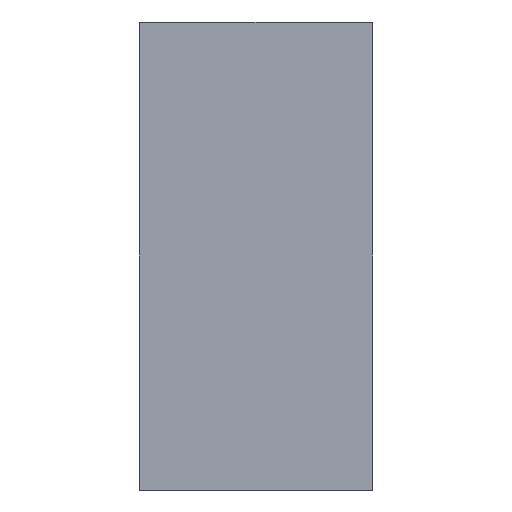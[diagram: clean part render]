
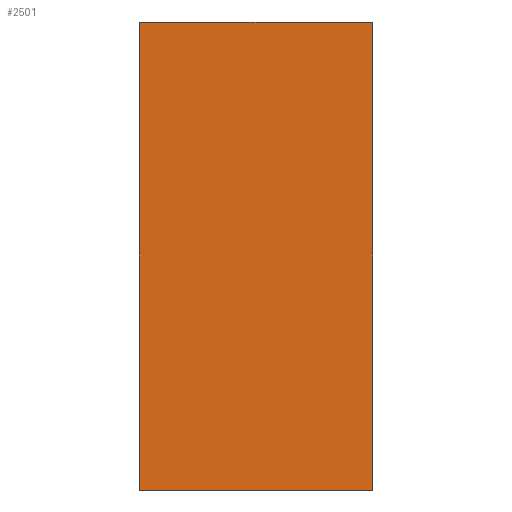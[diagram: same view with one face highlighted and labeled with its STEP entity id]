
A CAD part, front view. The second image highlights one B-rep face of the part: STEP entity #2501.
In plain terms, the highlighted planar face has unit normal (0, -1, 0).
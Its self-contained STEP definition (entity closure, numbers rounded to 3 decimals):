
#62 = DIRECTION ( 'NONE',  ( 0., -1., 0. ) ) ;
#69 = VERTEX_POINT ( 'NONE', #658 ) ;
#112 = VERTEX_POINT ( 'NONE', #427 ) ;
#156 = LINE ( 'NONE', #1162, #797 ) ;
#178 = CIRCLE ( 'NONE', #3249, 0.5 ) ;
#238 = VERTEX_POINT ( 'NONE', #1790 ) ;
#288 = AXIS2_PLACEMENT_3D ( 'NONE', #2289, #3443, #913 ) ;
#310 = CARTESIAN_POINT ( 'NONE',  ( 0., 0., 220. ) ) ;
#397 = AXIS2_PLACEMENT_3D ( 'NONE', #2457, #62, #1070 ) ;
#408 = LINE ( 'NONE', #1442, #1291 ) ;
#427 = CARTESIAN_POINT ( 'NONE',  ( -109.5, 0., 220. ) ) ;
#474 = DIRECTION ( 'NONE',  ( 0., -1., 0. ) ) ;
#495 = VECTOR ( 'NONE', #1329, 1000. ) ;
#570 = VERTEX_POINT ( 'NONE', #2739 ) ;
#582 = CARTESIAN_POINT ( 'NONE',  ( -109.5, 0., 219.5 ) ) ;
#611 = ORIENTED_EDGE ( 'NONE', *, *, #2812, .T. ) ;
#619 = CARTESIAN_POINT ( 'NONE',  ( 0., 0., -220. ) ) ;
#658 = CARTESIAN_POINT ( 'NONE',  ( -110., 0., 219.5 ) ) ;
#793 = EDGE_CURVE ( 'NONE', #69, #1966, #156, .T. ) ;
#797 = VECTOR ( 'NONE', #2286, 1000. ) ;
#815 = ORIENTED_EDGE ( 'NONE', *, *, #1789, .T. ) ;
#898 = ORIENTED_EDGE ( 'NONE', *, *, #3034, .T. ) ;
#913 = DIRECTION ( 'NONE',  ( -1., 0., 0. ) ) ;
#943 = DIRECTION ( 'NONE',  ( 0., 1., 0. ) ) ;
#958 = ORIENTED_EDGE ( 'NONE', *, *, #2306, .F. ) ;
#1070 = DIRECTION ( 'NONE',  ( -1., 0., 0. ) ) ;
#1126 = ORIENTED_EDGE ( 'NONE', *, *, #2446, .F. ) ;
#1162 = CARTESIAN_POINT ( 'NONE',  ( -110., 0., 220. ) ) ;
#1187 = CARTESIAN_POINT ( 'NONE',  ( 109.5, 0., -220. ) ) ;
#1199 = FACE_OUTER_BOUND ( 'NONE', #2536, .T. ) ;
#1291 = VECTOR ( 'NONE', #2571, 1000. ) ;
#1329 = DIRECTION ( 'NONE',  ( 1., 0., 0. ) ) ;
#1360 = DIRECTION ( 'NONE',  ( 0., -1., 0. ) ) ;
#1442 = CARTESIAN_POINT ( 'NONE',  ( 110., 0., 220. ) ) ;
#1516 = DIRECTION ( 'NONE',  ( -1., 0., 0. ) ) ;
#1570 = AXIS2_PLACEMENT_3D ( 'NONE', #3479, #943, #2050 ) ;
#1665 = CARTESIAN_POINT ( 'NONE',  ( -110., 0., -219.5 ) ) ;
#1680 = DIRECTION ( 'NONE',  ( 1., 0., 0. ) ) ;
#1789 = EDGE_CURVE ( 'NONE', #3418, #238, #178, .T. ) ;
#1790 = CARTESIAN_POINT ( 'NONE',  ( 110., 0., -219.5 ) ) ;
#1966 = VERTEX_POINT ( 'NONE', #1665 ) ;
#1977 = EDGE_CURVE ( 'NONE', #570, #3418, #3104, .T. ) ;
#2050 = DIRECTION ( 'NONE',  ( -1., 0., 0. ) ) ;
#2243 = CIRCLE ( 'NONE', #288, 0.5 ) ;
#2286 = DIRECTION ( 'NONE',  ( 0., 0., -1. ) ) ;
#2289 = CARTESIAN_POINT ( 'NONE',  ( 109.5, 0., 219.5 ) ) ;
#2306 = EDGE_CURVE ( 'NONE', #112, #3055, #2742, .T. ) ;
#2328 = PLANE ( 'NONE',  #1570 ) ;
#2347 = AXIS2_PLACEMENT_3D ( 'NONE', #582, #1360, #2491 ) ;
#2367 = CIRCLE ( 'NONE', #397, 0.5 ) ;
#2428 = ORIENTED_EDGE ( 'NONE', *, *, #3285, .T. ) ;
#2446 = EDGE_CURVE ( 'NONE', #2688, #238, #408, .T. ) ;
#2457 = CARTESIAN_POINT ( 'NONE',  ( -109.5, 0., -219.5 ) ) ;
#2467 = CIRCLE ( 'NONE', #2347, 0.5 ) ;
#2491 = DIRECTION ( 'NONE',  ( -1., 0., 0. ) ) ;
#2501 = ADVANCED_FACE ( 'NONE', ( #1199 ), #2328, .F. ) ;
#2536 = EDGE_LOOP ( 'NONE', ( #958, #898, #2886, #2428, #2996, #815, #1126, #611 ) ) ;
#2571 = DIRECTION ( 'NONE',  ( 0., 0., -1. ) ) ;
#2688 = VERTEX_POINT ( 'NONE', #3064 ) ;
#2739 = CARTESIAN_POINT ( 'NONE',  ( -109.5, 0., -220. ) ) ;
#2742 = LINE ( 'NONE', #310, #495 ) ;
#2794 = CARTESIAN_POINT ( 'NONE',  ( 109.5, 0., 220. ) ) ;
#2812 = EDGE_CURVE ( 'NONE', #2688, #3055, #2243, .T. ) ;
#2886 = ORIENTED_EDGE ( 'NONE', *, *, #793, .T. ) ;
#2931 = CARTESIAN_POINT ( 'NONE',  ( 109.5, 0., -219.5 ) ) ;
#2996 = ORIENTED_EDGE ( 'NONE', *, *, #1977, .T. ) ;
#3034 = EDGE_CURVE ( 'NONE', #112, #69, #2467, .T. ) ;
#3055 = VERTEX_POINT ( 'NONE', #2794 ) ;
#3064 = CARTESIAN_POINT ( 'NONE',  ( 110., 0., 219.5 ) ) ;
#3104 = LINE ( 'NONE', #619, #3442 ) ;
#3249 = AXIS2_PLACEMENT_3D ( 'NONE', #2931, #474, #1516 ) ;
#3285 = EDGE_CURVE ( 'NONE', #1966, #570, #2367, .T. ) ;
#3418 = VERTEX_POINT ( 'NONE', #1187 ) ;
#3442 = VECTOR ( 'NONE', #1680, 1000. ) ;
#3443 = DIRECTION ( 'NONE',  ( 0., -1., 0. ) ) ;
#3479 = CARTESIAN_POINT ( 'NONE',  ( 0., 0., 220. ) ) ;
